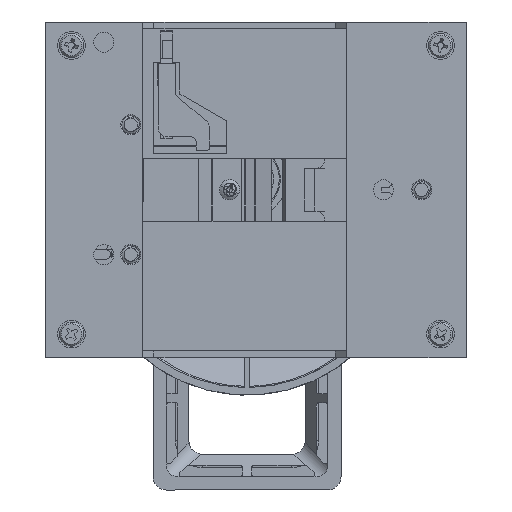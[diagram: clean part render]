
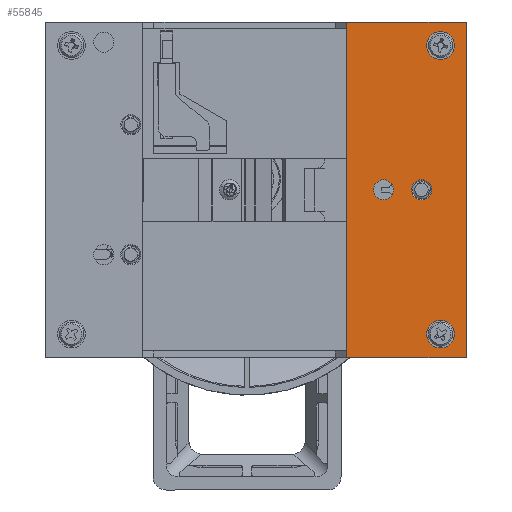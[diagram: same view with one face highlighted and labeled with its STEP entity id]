
A CAD part, front view. The second image highlights one B-rep face of the part: STEP entity #55845.
In plain terms, the highlighted planar face has unit normal (0, -1, 0).
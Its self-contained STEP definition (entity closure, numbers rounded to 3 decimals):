
#17045 = DIRECTION ( 'NONE',  ( 1., 0., 0. ) ) ;
#17046 = VECTOR ( 'NONE', #17045, 1000. ) ;
#17047 = CARTESIAN_POINT ( 'NONE',  ( 19.143, -16.526, -37.5 ) ) ;
#17048 = LINE ( 'NONE', #17047, #17046 ) ;
#17049 = CARTESIAN_POINT ( 'NONE',  ( 19.143, -16.526, 37.5 ) ) ;
#17050 = CARTESIAN_POINT ( 'NONE',  ( 19.143, -16.526, -37.5 ) ) ;
#17057 = DIRECTION ( 'NONE',  ( 0., 0., -1. ) ) ;
#17058 = VECTOR ( 'NONE', #17057, 1000. ) ;
#17059 = CARTESIAN_POINT ( 'NONE',  ( 19.143, -16.526, 37.5 ) ) ;
#17060 = LINE ( 'NONE', #17059, #17058 ) ;
#17061 = DIRECTION ( 'NONE',  ( 1., 0., 0. ) ) ;
#17062 = VECTOR ( 'NONE', #17061, 1000. ) ;
#17063 = CARTESIAN_POINT ( 'NONE',  ( 19.143, -16.526, 37.5 ) ) ;
#17064 = LINE ( 'NONE', #17063, #17062 ) ;
#44566 = CARTESIAN_POINT ( 'NONE',  ( 45.943, -16.526, -37.5 ) ) ;
#44623 = CARTESIAN_POINT ( 'NONE',  ( 45.943, -16.526, 37.5 ) ) ;
#44658 = DIRECTION ( 'NONE',  ( 1., 0., 0. ) ) ;
#44659 = DIRECTION ( 'NONE',  ( 0., -1., 0. ) ) ;
#44660 = AXIS2_PLACEMENT_3D ( 'NONE', #44666, #44659, #44658 ) ;
#44661 = CIRCLE ( 'NONE', #44660, 3.1 ) ;
#44666 = CARTESIAN_POINT ( 'NONE',  ( 40.193, -16.526, 32.25 ) ) ;
#44669 = DIRECTION ( 'NONE',  ( 1., 0., 0. ) ) ;
#44670 = DIRECTION ( 'NONE',  ( 0., -1., 0. ) ) ;
#44671 = CARTESIAN_POINT ( 'NONE',  ( 27.443, -16.526, 0. ) ) ;
#44672 = AXIS2_PLACEMENT_3D ( 'NONE', #44671, #44670, #44669 ) ;
#44673 = CIRCLE ( 'NONE', #44672, 2.25 ) ;
#44685 = DIRECTION ( 'NONE',  ( 0., 0., -1. ) ) ;
#44686 = VECTOR ( 'NONE', #44685, 1000. ) ;
#44687 = CARTESIAN_POINT ( 'NONE',  ( 45.943, -16.526, 37.5 ) ) ;
#44688 = LINE ( 'NONE', #44687, #44686 ) ;
#44696 = DIRECTION ( 'NONE',  ( -1., 0., 0. ) ) ;
#44697 = DIRECTION ( 'NONE',  ( 0., 1., 0. ) ) ;
#44698 = CARTESIAN_POINT ( 'NONE',  ( 19.143, -16.526, 37.5 ) ) ;
#44699 = AXIS2_PLACEMENT_3D ( 'NONE', #44698, #44697, #44696 ) ;
#44700 = PLANE ( 'NONE',  #44699 ) ;
#44701 = FACE_OUTER_BOUND ( 'NONE', #55903, .T. ) ;
#44702 = FACE_BOUND ( 'NONE', #55895, .T. ) ;
#44703 = FACE_BOUND ( 'NONE', #55887, .T. ) ;
#44704 = FACE_BOUND ( 'NONE', #56040, .T. ) ;
#44705 = FACE_BOUND ( 'NONE', #55848, .T. ) ;
#44706 = DIRECTION ( 'NONE',  ( 1., 0., 0. ) ) ;
#44707 = DIRECTION ( 'NONE',  ( 0., -1., 0. ) ) ;
#44708 = CARTESIAN_POINT ( 'NONE',  ( 40.193, -16.526, -32.25 ) ) ;
#44709 = AXIS2_PLACEMENT_3D ( 'NONE', #44708, #44707, #44706 ) ;
#44710 = CIRCLE ( 'NONE', #44709, 3.1 ) ;
#44771 = DIRECTION ( 'NONE',  ( 1., 0., 0. ) ) ;
#44772 = DIRECTION ( 'NONE',  ( 0., -1., 0. ) ) ;
#44773 = CARTESIAN_POINT ( 'NONE',  ( 35.943, -16.526, 0. ) ) ;
#44774 = AXIS2_PLACEMENT_3D ( 'NONE', #44773, #44772, #44771 ) ;
#44775 = CIRCLE ( 'NONE', #44774, 2.25 ) ;
#45892 = VERTEX_POINT ( 'NONE', #57105 ) ;
#45950 = EDGE_CURVE ( 'NONE', #45892, #45951, #57219, .T. ) ;
#45951 = VERTEX_POINT ( 'NONE', #57211 ) ;
#45962 = VERTEX_POINT ( 'NONE', #57291 ) ;
#45964 = EDGE_CURVE ( 'NONE', #45962, #45965, #57288, .T. ) ;
#45965 = VERTEX_POINT ( 'NONE', #57282 ) ;
#46158 = EDGE_CURVE ( 'NONE', #46184, #46159, #57939, .T. ) ;
#46159 = VERTEX_POINT ( 'NONE', #57927 ) ;
#46172 = VERTEX_POINT ( 'NONE', #58007 ) ;
#46174 = EDGE_CURVE ( 'NONE', #46172, #46175, #58004, .T. ) ;
#46175 = VERTEX_POINT ( 'NONE', #57998 ) ;
#46184 = VERTEX_POINT ( 'NONE', #57958 ) ;
#52006 = EDGE_CURVE ( 'NONE', #52035, #55745, #17064, .T. ) ;
#52008 = ORIENTED_EDGE ( 'NONE', *, *, #52010, .T. ) ;
#52010 = EDGE_CURVE ( 'NONE', #52035, #52029, #17060, .T. ) ;
#52029 = VERTEX_POINT ( 'NONE', #17050 ) ;
#52033 = ORIENTED_EDGE ( 'NONE', *, *, #52006, .F. ) ;
#52035 = VERTEX_POINT ( 'NONE', #17049 ) ;
#52041 = EDGE_CURVE ( 'NONE', #52029, #55738, #17048, .T. ) ;
#52069 = ORIENTED_EDGE ( 'NONE', *, *, #55809, .F. ) ;
#55738 = VERTEX_POINT ( 'NONE', #44566 ) ;
#55745 = VERTEX_POINT ( 'NONE', #44623 ) ;
#55809 = EDGE_CURVE ( 'NONE', #55745, #55738, #44688, .T. ) ;
#55822 = EDGE_CURVE ( 'NONE', #45965, #45962, #44673, .T. ) ;
#55829 = EDGE_CURVE ( 'NONE', #46159, #46184, #44661, .T. ) ;
#55843 = EDGE_CURVE ( 'NONE', #46175, #46172, #44710, .T. ) ;
#55845 = ADVANCED_FACE ( 'NONE', ( #44705, #44704, #44703, #44702, #44701 ), #44700, .F. ) ;
#55848 = EDGE_LOOP ( 'NONE', ( #56038, #56039 ) ) ;
#55881 = ORIENTED_EDGE ( 'NONE', *, *, #55829, .F. ) ;
#55884 = ORIENTED_EDGE ( 'NONE', *, *, #46158, .F. ) ;
#55887 = EDGE_LOOP ( 'NONE', ( #55889, #55892 ) ) ;
#55889 = ORIENTED_EDGE ( 'NONE', *, *, #55946, .F. ) ;
#55892 = ORIENTED_EDGE ( 'NONE', *, *, #45950, .F. ) ;
#55895 = EDGE_LOOP ( 'NONE', ( #55897, #55900 ) ) ;
#55897 = ORIENTED_EDGE ( 'NONE', *, *, #55822, .F. ) ;
#55900 = ORIENTED_EDGE ( 'NONE', *, *, #45964, .F. ) ;
#55903 = EDGE_LOOP ( 'NONE', ( #55905, #52069, #52033, #52008 ) ) ;
#55905 = ORIENTED_EDGE ( 'NONE', *, *, #52041, .T. ) ;
#55946 = EDGE_CURVE ( 'NONE', #45951, #45892, #44775, .T. ) ;
#56038 = ORIENTED_EDGE ( 'NONE', *, *, #55843, .F. ) ;
#56039 = ORIENTED_EDGE ( 'NONE', *, *, #46174, .F. ) ;
#56040 = EDGE_LOOP ( 'NONE', ( #55881, #55884 ) ) ;
#57105 = CARTESIAN_POINT ( 'NONE',  ( 33.693, -16.526, 0. ) ) ;
#57211 = CARTESIAN_POINT ( 'NONE',  ( 38.193, -16.526, 0. ) ) ;
#57213 = DIRECTION ( 'NONE',  ( 1., 0., 0. ) ) ;
#57214 = DIRECTION ( 'NONE',  ( 0., -1., 0. ) ) ;
#57216 = CARTESIAN_POINT ( 'NONE',  ( 35.943, -16.526, 0. ) ) ;
#57217 = AXIS2_PLACEMENT_3D ( 'NONE', #57216, #57214, #57213 ) ;
#57219 = CIRCLE ( 'NONE', #57217, 2.25 ) ;
#57282 = CARTESIAN_POINT ( 'NONE',  ( 29.693, -16.526, 0. ) ) ;
#57283 = DIRECTION ( 'NONE',  ( 1., 0., 0. ) ) ;
#57284 = DIRECTION ( 'NONE',  ( 0., -1., 0. ) ) ;
#57285 = CARTESIAN_POINT ( 'NONE',  ( 27.443, -16.526, 0. ) ) ;
#57287 = AXIS2_PLACEMENT_3D ( 'NONE', #57285, #57284, #57283 ) ;
#57288 = CIRCLE ( 'NONE', #57287, 2.25 ) ;
#57291 = CARTESIAN_POINT ( 'NONE',  ( 25.193, -16.526, 0. ) ) ;
#57927 = CARTESIAN_POINT ( 'NONE',  ( 43.293, -16.526, 32.25 ) ) ;
#57930 = DIRECTION ( 'NONE',  ( 1., 0., 0. ) ) ;
#57933 = DIRECTION ( 'NONE',  ( 0., -1., 0. ) ) ;
#57935 = CARTESIAN_POINT ( 'NONE',  ( 40.193, -16.526, 32.25 ) ) ;
#57937 = AXIS2_PLACEMENT_3D ( 'NONE', #57935, #57933, #57930 ) ;
#57939 = CIRCLE ( 'NONE', #57937, 3.1 ) ;
#57958 = CARTESIAN_POINT ( 'NONE',  ( 37.093, -16.526, 32.25 ) ) ;
#57998 = CARTESIAN_POINT ( 'NONE',  ( 43.293, -16.526, -32.25 ) ) ;
#57999 = DIRECTION ( 'NONE',  ( 1., 0., 0. ) ) ;
#58000 = DIRECTION ( 'NONE',  ( 0., -1., 0. ) ) ;
#58001 = CARTESIAN_POINT ( 'NONE',  ( 40.193, -16.526, -32.25 ) ) ;
#58003 = AXIS2_PLACEMENT_3D ( 'NONE', #58001, #58000, #57999 ) ;
#58004 = CIRCLE ( 'NONE', #58003, 3.1 ) ;
#58007 = CARTESIAN_POINT ( 'NONE',  ( 37.093, -16.526, -32.25 ) ) ;
